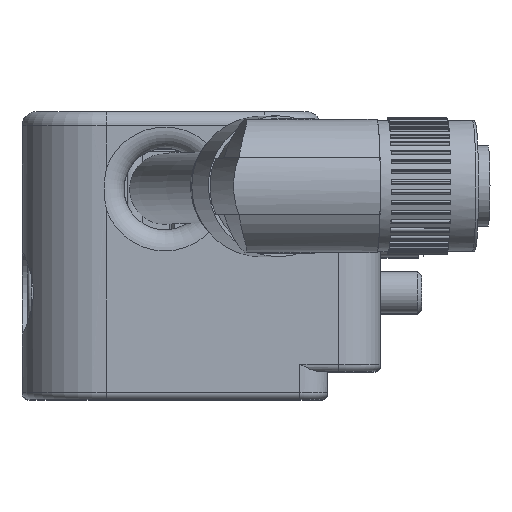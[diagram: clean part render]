
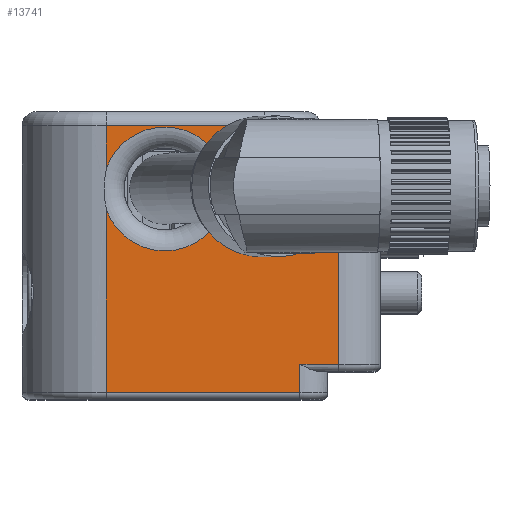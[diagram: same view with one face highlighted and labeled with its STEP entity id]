
A CAD part, top view. The second image highlights one B-rep face of the part: STEP entity #13741.
In plain terms, the highlighted planar face has unit normal (0, 0, 1).
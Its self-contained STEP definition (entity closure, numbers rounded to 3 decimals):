
#444=PLANE('',#14907);
#1296=FACE_OUTER_BOUND('',#2104,.T.);
#2104=EDGE_LOOP('',(#10222,#10223,#10224,#10225,#10226,#10227,#10228,#10229,
#10230,#10231,#10232));
#3025=LINE('',#22728,#3986);
#3027=LINE('',#22733,#3988);
#3033=LINE('',#22748,#3994);
#3054=LINE('',#22879,#4015);
#3056=LINE('',#22885,#4017);
#3057=LINE('',#22886,#4018);
#3058=LINE('',#22888,#4019);
#3059=LINE('',#22894,#4020);
#3060=LINE('',#22895,#4021);
#3986=VECTOR('',#17468,10.);
#3988=VECTOR('',#17474,10.);
#3994=VECTOR('',#17490,10.);
#4015=VECTOR('',#17577,10.);
#4017=VECTOR('',#17583,10.);
#4018=VECTOR('',#17584,3.);
#4019=VECTOR('',#17585,10.);
#4020=VECTOR('',#17590,10.);
#4021=VECTOR('',#17591,10.);
#4983=CIRCLE('',#14908,4.4);
#4984=CIRCLE('',#14909,4.4);
#5955=VERTEX_POINT('',#22658);
#5971=VERTEX_POINT('',#22723);
#5972=VERTEX_POINT('',#22732);
#5976=VERTEX_POINT('',#22747);
#6016=VERTEX_POINT('',#22857);
#6017=VERTEX_POINT('',#22861);
#6020=VERTEX_POINT('',#22884);
#6021=VERTEX_POINT('',#22887);
#6022=VERTEX_POINT('',#22889);
#6023=VERTEX_POINT('',#22891);
#6024=VERTEX_POINT('',#22893);
#7506=EDGE_CURVE('',#5955,#5971,#3025,.T.);
#7508=EDGE_CURVE('',#5971,#5972,#3027,.T.);
#7516=EDGE_CURVE('',#5976,#5972,#3033,.T.);
#7565=EDGE_CURVE('',#6017,#6016,#3054,.T.);
#7568=EDGE_CURVE('',#6017,#6020,#3056,.T.);
#7569=EDGE_CURVE('',#5976,#6020,#3057,.T.);
#7570=EDGE_CURVE('',#6021,#5955,#3058,.T.);
#7571=EDGE_CURVE('',#6022,#6021,#4983,.T.);
#7572=EDGE_CURVE('',#6023,#6022,#4984,.T.);
#7573=EDGE_CURVE('',#6024,#6023,#3059,.T.);
#7574=EDGE_CURVE('',#6016,#6024,#3060,.T.);
#10222=ORIENTED_EDGE('',*,*,#7565,.F.);
#10223=ORIENTED_EDGE('',*,*,#7568,.T.);
#10224=ORIENTED_EDGE('',*,*,#7569,.F.);
#10225=ORIENTED_EDGE('',*,*,#7516,.T.);
#10226=ORIENTED_EDGE('',*,*,#7508,.F.);
#10227=ORIENTED_EDGE('',*,*,#7506,.F.);
#10228=ORIENTED_EDGE('',*,*,#7570,.F.);
#10229=ORIENTED_EDGE('',*,*,#7571,.F.);
#10230=ORIENTED_EDGE('',*,*,#7572,.F.);
#10231=ORIENTED_EDGE('',*,*,#7573,.F.);
#10232=ORIENTED_EDGE('',*,*,#7574,.F.);
#13741=ADVANCED_FACE('',(#1296),#444,.T.);
#14907=AXIS2_PLACEMENT_3D('',#22883,#17581,#17582);
#14908=AXIS2_PLACEMENT_3D('',#22890,#17586,#17587);
#14909=AXIS2_PLACEMENT_3D('',#22892,#17588,#17589);
#17468=DIRECTION('',(1.,0.,0.));
#17474=DIRECTION('',(0.,-1.,0.));
#17490=DIRECTION('',(-1.,0.,0.));
#17577=DIRECTION('',(0.,-1.,0.));
#17581=DIRECTION('center_axis',(0.,0.,
1.));
#17582=DIRECTION('ref_axis',(0.,1.,0.));
#17583=DIRECTION('',(1.,0.,0.));
#17584=DIRECTION('',(0.,-1.,0.));
#17585=DIRECTION('',(0.,1.,0.));
#17586=DIRECTION('center_axis',(0.,0.,
1.));
#17587=DIRECTION('ref_axis',(0.,1.,0.));
#17588=DIRECTION('center_axis',(0.,0.,
1.));
#17589=DIRECTION('ref_axis',(0.,1.,0.));
#17590=DIRECTION('',(0.,1.,0.));
#17591=DIRECTION('',(-1.,0.,0.));
#22658=CARTESIAN_POINT('',(-5.05,28.6,19.));
#22723=CARTESIAN_POINT('',(6.15,28.6,19.));
#22728=CARTESIAN_POINT('',(-5.75,28.6,19.));
#22732=CARTESIAN_POINT('',(6.15,24.1,19.));
#22733=CARTESIAN_POINT('',(6.15,29.6,19.));
#22747=CARTESIAN_POINT('',(11.45,24.1,19.));
#22748=CARTESIAN_POINT('',(14.45,24.1,19.));
#22857=CARTESIAN_POINT('',(8.69,9.65,19.));
#22861=CARTESIAN_POINT('',(8.69,11.65,19.));
#22879=CARTESIAN_POINT('',(8.69,9.15,19.));
#22883=CARTESIAN_POINT('Origin',(-11.05,24.1,19.));
#22884=CARTESIAN_POINT('',(11.45,11.65,19.));
#22885=CARTESIAN_POINT('',(14.771,11.65,19.));
#22886=CARTESIAN_POINT('',(11.45,24.1,19.));
#22887=CARTESIAN_POINT('',(-5.05,25.562,19.));
#22888=CARTESIAN_POINT('',(-5.05,29.6,19.));
#22889=CARTESIAN_POINT('',(-0.9,28.5,19.));
#22890=CARTESIAN_POINT('Origin',(-0.9,24.1,19.));
#22891=CARTESIAN_POINT('',(-5.05,22.638,19.));
#22892=CARTESIAN_POINT('Origin',(-0.9,24.1,19.));
#22893=CARTESIAN_POINT('',(-5.05,9.65,19.));
#22894=CARTESIAN_POINT('',(-5.05,24.1,19.));
#22895=CARTESIAN_POINT('',(-4.675,9.65,19.));
